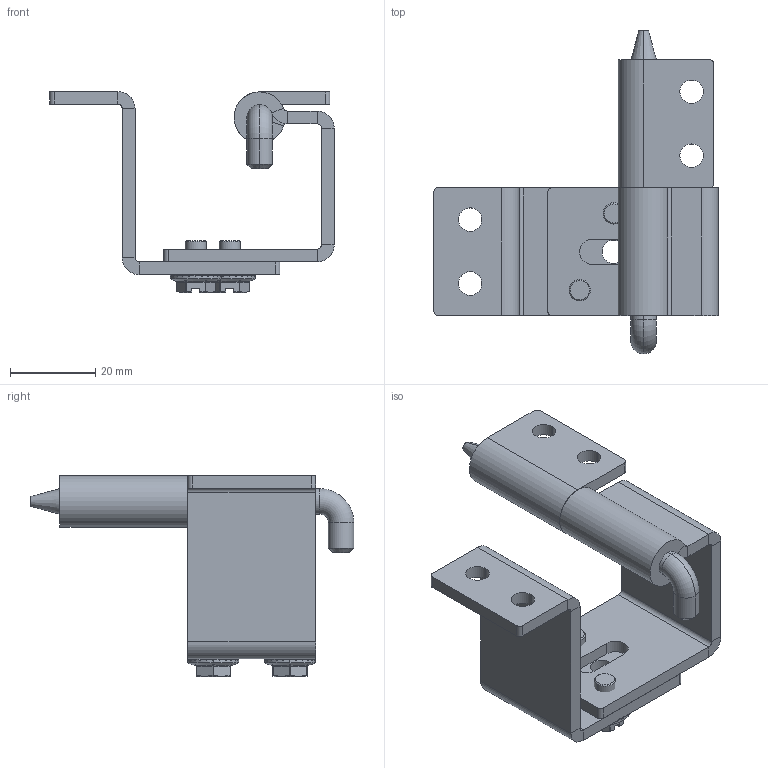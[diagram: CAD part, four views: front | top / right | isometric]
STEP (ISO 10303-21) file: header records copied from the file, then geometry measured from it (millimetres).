
FILE_DESCRIPTION((''),'2;1');
FILE_NAME('CL128_ASM','2016-07-13T',('master'),(''),'PRO/ENGINEER BY PARAMETRIC TECHNOLOGY CORPORATION, 2009060','PRO/ENGINEER BY PARAMETRIC TECHNOLOGY CORPORATION, 2009060','');
FILE_SCHEMA(('CONFIG_CONTROL_DESIGN'));
Length unit declared in the file: millimetre
Products named in the file (6): DINGJIAOLIAN-128; LIANJIEBAN-128; DONGJIAOLIAN-128; ZHUANZHOU-128; DIEXINGLUOSHUANG-8; CL128_ASM
Assembly tree (6 placements, depth 2):
  CL128_ASM
    DINGJIAOLIAN-128
    LIANJIEBAN-128
    DONGJIAOLIAN-128
    ZHUANZHOU-128
    DIEXINGLUOSHUANG-8  x2
Bounding box: 66.75 x 76 x 47.2 mm (x, y, z)
Volume: 23339.8 mm3; surface area: 18697.7 mm2
Topology: 6 solids, 6 shells, 822 faces, 1948 edges, 1140 vertices
Faces by surface type: bspline 280, cylinder 214, plane 166, sphere 96, torus 50, cone 16
Entity records: 17910 total; most frequent: CARTESIAN_POINT 8036, ORIENTED_EDGE 2196, DIRECTION 1826, EDGE_CURVE 1098, AXIS2_PLACEMENT_3D 737, VERTEX_POINT 644, EDGE_LOOP 486, FACE_OUTER_BOUND 465
